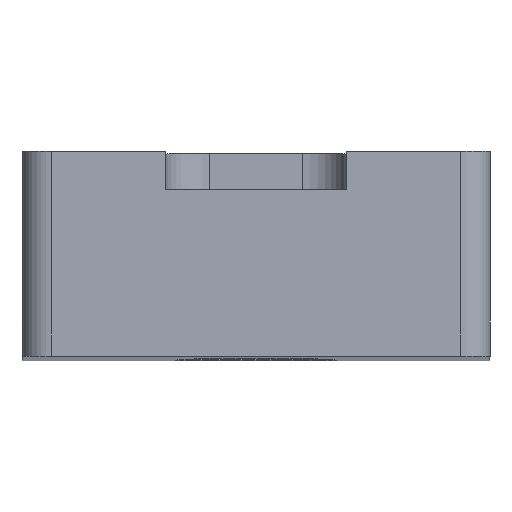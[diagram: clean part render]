
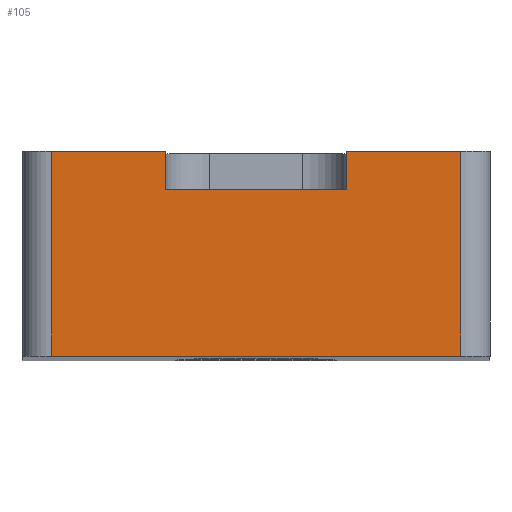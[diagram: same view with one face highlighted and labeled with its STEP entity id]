
A CAD part, top view. The second image highlights one B-rep face of the part: STEP entity #105.
In plain terms, the highlighted planar face has unit normal (0, 0, 1).
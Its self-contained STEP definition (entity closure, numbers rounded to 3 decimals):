
#2 = EDGE_CURVE ( 'NONE', #185, #629, #24, .T. ) ;
#24 = LINE ( 'NONE', #78, #293 ) ;
#35 = ORIENTED_EDGE ( 'NONE', *, *, #905, .T. ) ;
#40 = VERTEX_POINT ( 'NONE', #776 ) ;
#58 = CARTESIAN_POINT ( 'NONE',  ( -8., 7., 45. ) ) ;
#72 = DIRECTION ( 'NONE',  ( 0., 0., -1. ) ) ;
#78 = CARTESIAN_POINT ( 'NONE',  ( -8., 7., 45. ) ) ;
#82 = DIRECTION ( 'NONE',  ( 1., 0., 0. ) ) ;
#105 = ADVANCED_FACE ( 'NONE', ( #515 ), #951, .F. ) ;
#126 = CARTESIAN_POINT ( 'NONE',  ( 7., 0., 45. ) ) ;
#128 = LINE ( 'NONE', #896, #784 ) ;
#140 = LINE ( 'NONE', #891, #618 ) ;
#143 = ORIENTED_EDGE ( 'NONE', *, *, #2, .F. ) ;
#154 = LINE ( 'NONE', #340, #415 ) ;
#185 = VERTEX_POINT ( 'NONE', #726 ) ;
#228 = DIRECTION ( 'NONE',  ( 1., 0., 0. ) ) ;
#244 = CARTESIAN_POINT ( 'NONE',  ( -3.1, 5.7, 45. ) ) ;
#247 = DIRECTION ( 'NONE',  ( -1., 0., 0. ) ) ;
#264 = VERTEX_POINT ( 'NONE', #244 ) ;
#275 = CARTESIAN_POINT ( 'NONE',  ( -3.1, 7., 45. ) ) ;
#277 = VECTOR ( 'NONE', #228, 1000. ) ;
#293 = VECTOR ( 'NONE', #82, 1000. ) ;
#299 = EDGE_CURVE ( 'NONE', #325, #40, #154, .T. ) ;
#325 = VERTEX_POINT ( 'NONE', #398 ) ;
#340 = CARTESIAN_POINT ( 'NONE',  ( 3.1, 7., 45. ) ) ;
#349 = DIRECTION ( 'NONE',  ( 0., -1., 0. ) ) ;
#364 = EDGE_CURVE ( 'NONE', #585, #908, #834, .T. ) ;
#385 = ORIENTED_EDGE ( 'NONE', *, *, #680, .T. ) ;
#398 = CARTESIAN_POINT ( 'NONE',  ( 3.1, 7., 45. ) ) ;
#404 = CARTESIAN_POINT ( 'NONE',  ( 7., 7., 45. ) ) ;
#415 = VECTOR ( 'NONE', #349, 1000. ) ;
#444 = VERTEX_POINT ( 'NONE', #566 ) ;
#472 = DIRECTION ( 'NONE',  ( 1., 0., 0. ) ) ;
#500 = EDGE_CURVE ( 'NONE', #185, #444, #775, .T. ) ;
#515 = FACE_OUTER_BOUND ( 'NONE', #669, .T. ) ;
#540 = LINE ( 'NONE', #991, #277 ) ;
#566 = CARTESIAN_POINT ( 'NONE',  ( -7., 0., 45. ) ) ;
#585 = VERTEX_POINT ( 'NONE', #126 ) ;
#590 = CARTESIAN_POINT ( 'NONE',  ( -8., 5.7, 45. ) ) ;
#596 = EDGE_CURVE ( 'NONE', #325, #908, #540, .T. ) ;
#617 = DIRECTION ( 'NONE',  ( 0., 1., 0. ) ) ;
#618 = VECTOR ( 'NONE', #472, 1000. ) ;
#629 = VERTEX_POINT ( 'NONE', #275 ) ;
#638 = ORIENTED_EDGE ( 'NONE', *, *, #299, .T. ) ;
#659 = ORIENTED_EDGE ( 'NONE', *, *, #500, .T. ) ;
#669 = EDGE_LOOP ( 'NONE', ( #756, #638, #749, #385, #143, #659, #35, #785 ) ) ;
#680 = EDGE_CURVE ( 'NONE', #264, #629, #128, .T. ) ;
#685 = VECTOR ( 'NONE', #841, 1000. ) ;
#726 = CARTESIAN_POINT ( 'NONE',  ( -7., 7., 45. ) ) ;
#744 = LINE ( 'NONE', #590, #685 ) ;
#749 = ORIENTED_EDGE ( 'NONE', *, *, #839, .T. ) ;
#753 = VECTOR ( 'NONE', #837, 1000. ) ;
#756 = ORIENTED_EDGE ( 'NONE', *, *, #596, .F. ) ;
#775 = LINE ( 'NONE', #817, #753 ) ;
#776 = CARTESIAN_POINT ( 'NONE',  ( 3.1, 5.7, 45. ) ) ;
#782 = DIRECTION ( 'NONE',  ( 0., 1., 0. ) ) ;
#784 = VECTOR ( 'NONE', #617, 1000. ) ;
#785 = ORIENTED_EDGE ( 'NONE', *, *, #364, .T. ) ;
#817 = CARTESIAN_POINT ( 'NONE',  ( -7., 7., 45. ) ) ;
#834 = LINE ( 'NONE', #404, #974 ) ;
#837 = DIRECTION ( 'NONE',  ( 0., -1., 0. ) ) ;
#839 = EDGE_CURVE ( 'NONE', #40, #264, #744, .T. ) ;
#841 = DIRECTION ( 'NONE',  ( -1., 0., 0. ) ) ;
#878 = CARTESIAN_POINT ( 'NONE',  ( 7., 7., 45. ) ) ;
#891 = CARTESIAN_POINT ( 'NONE',  ( -8., 0., 45. ) ) ;
#894 = AXIS2_PLACEMENT_3D ( 'NONE', #58, #72, #247 ) ;
#896 = CARTESIAN_POINT ( 'NONE',  ( -3.1, 7., 45. ) ) ;
#905 = EDGE_CURVE ( 'NONE', #444, #585, #140, .T. ) ;
#908 = VERTEX_POINT ( 'NONE', #878 ) ;
#951 = PLANE ( 'NONE',  #894 ) ;
#974 = VECTOR ( 'NONE', #782, 1000. ) ;
#991 = CARTESIAN_POINT ( 'NONE',  ( -8., 7., 45. ) ) ;
